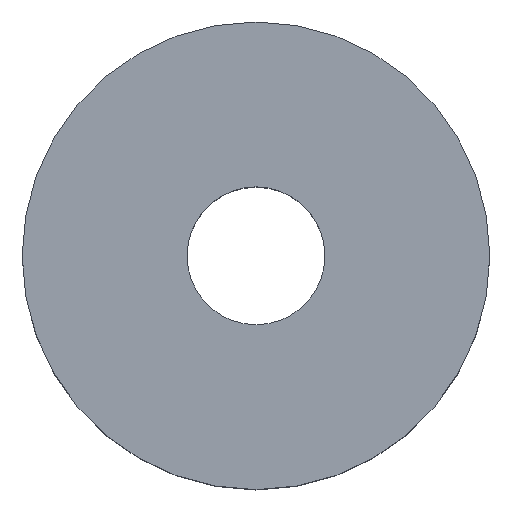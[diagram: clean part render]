
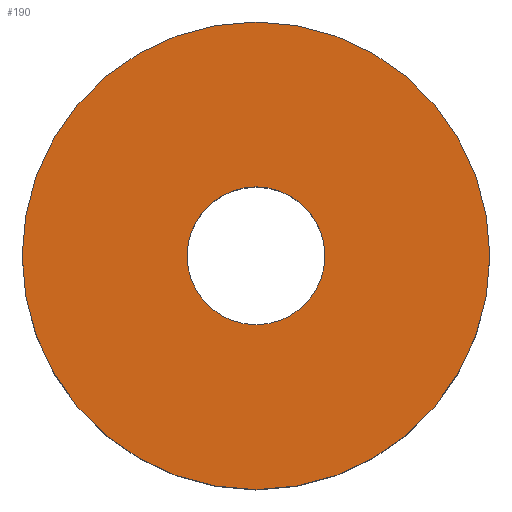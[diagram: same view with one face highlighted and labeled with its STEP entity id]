
A CAD part, top view. The second image highlights one B-rep face of the part: STEP entity #190.
In plain terms, the highlighted planar face has unit normal (0, 0, 1).
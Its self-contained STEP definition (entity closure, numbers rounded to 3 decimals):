
#24 = VERTEX_POINT('',#25);
#25 = CARTESIAN_POINT('',(47.5,0.,42.));
#32 = CYLINDRICAL_SURFACE('',#33,47.5);
#33 = AXIS2_PLACEMENT_3D('',#34,#35,#36);
#34 = CARTESIAN_POINT('',(0.,0.,0.));
#35 = DIRECTION('',(-0.,-0.,-1.));
#36 = DIRECTION('',(1.,0.,0.));
#51 = EDGE_CURVE('',#24,#24,#52,.T.);
#52 = SURFACE_CURVE('',#53,(#58,#65),.PCURVE_S1.);
#53 = CIRCLE('',#54,47.5);
#54 = AXIS2_PLACEMENT_3D('',#55,#56,#57);
#55 = CARTESIAN_POINT('',(0.,0.,42.));
#56 = DIRECTION('',(0.,0.,1.));
#57 = DIRECTION('',(1.,0.,0.));
#58 = PCURVE('',#32,#59);
#59 = DEFINITIONAL_REPRESENTATION('',(#60),#64);
#60 = LINE('',#61,#62);
#61 = CARTESIAN_POINT('',(-0.,-42.));
#62 = VECTOR('',#63,1.);
#63 = DIRECTION('',(-1.,0.));
#64 = ( GEOMETRIC_REPRESENTATION_CONTEXT(2) 
PARAMETRIC_REPRESENTATION_CONTEXT() REPRESENTATION_CONTEXT('2D SPACE',''
  ) );
#65 = PCURVE('',#66,#71);
#66 = PLANE('',#67);
#67 = AXIS2_PLACEMENT_3D('',#68,#69,#70);
#68 = CARTESIAN_POINT('',(0.,0.,42.));
#69 = DIRECTION('',(0.,0.,1.));
#70 = DIRECTION('',(1.,0.,0.));
#71 = DEFINITIONAL_REPRESENTATION('',(#72),#76);
#72 = CIRCLE('',#73,47.5);
#73 = AXIS2_PLACEMENT_2D('',#74,#75);
#74 = CARTESIAN_POINT('',(0.,0.));
#75 = DIRECTION('',(1.,0.));
#76 = ( GEOMETRIC_REPRESENTATION_CONTEXT(2) 
PARAMETRIC_REPRESENTATION_CONTEXT() REPRESENTATION_CONTEXT('2D SPACE',''
  ) );
#112 = VERTEX_POINT('',#113);
#113 = CARTESIAN_POINT('',(14.,0.,42.));
#120 = CYLINDRICAL_SURFACE('',#121,14.);
#121 = AXIS2_PLACEMENT_3D('',#122,#123,#124);
#122 = CARTESIAN_POINT('',(0.,0.,0.));
#123 = DIRECTION('',(-0.,-0.,-1.));
#124 = DIRECTION('',(1.,0.,0.));
#139 = EDGE_CURVE('',#112,#112,#140,.T.);
#140 = SURFACE_CURVE('',#141,(#146,#153),.PCURVE_S1.);
#141 = CIRCLE('',#142,14.);
#142 = AXIS2_PLACEMENT_3D('',#143,#144,#145);
#143 = CARTESIAN_POINT('',(0.,0.,42.));
#144 = DIRECTION('',(0.,0.,1.));
#145 = DIRECTION('',(1.,0.,0.));
#146 = PCURVE('',#120,#147);
#147 = DEFINITIONAL_REPRESENTATION('',(#148),#152);
#148 = LINE('',#149,#150);
#149 = CARTESIAN_POINT('',(-0.,-42.));
#150 = VECTOR('',#151,1.);
#151 = DIRECTION('',(-1.,0.));
#152 = ( GEOMETRIC_REPRESENTATION_CONTEXT(2) 
PARAMETRIC_REPRESENTATION_CONTEXT() REPRESENTATION_CONTEXT('2D SPACE',''
  ) );
#153 = PCURVE('',#66,#154);
#154 = DEFINITIONAL_REPRESENTATION('',(#155),#159);
#155 = CIRCLE('',#156,14.);
#156 = AXIS2_PLACEMENT_2D('',#157,#158);
#157 = CARTESIAN_POINT('',(0.,0.));
#158 = DIRECTION('',(1.,0.));
#159 = ( GEOMETRIC_REPRESENTATION_CONTEXT(2) 
PARAMETRIC_REPRESENTATION_CONTEXT() REPRESENTATION_CONTEXT('2D SPACE',''
  ) );
#190 = ADVANCED_FACE('',(#191,#194),#66,.T.);
#191 = FACE_BOUND('',#192,.T.);
#192 = EDGE_LOOP('',(#193));
#193 = ORIENTED_EDGE('',*,*,#51,.T.);
#194 = FACE_BOUND('',#195,.F.);
#195 = EDGE_LOOP('',(#196));
#196 = ORIENTED_EDGE('',*,*,#139,.T.);
